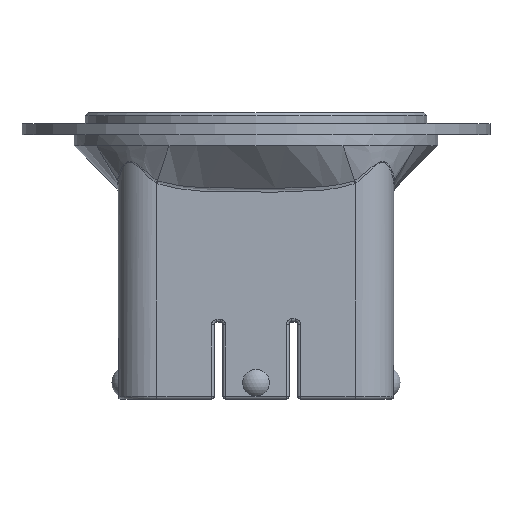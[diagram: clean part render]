
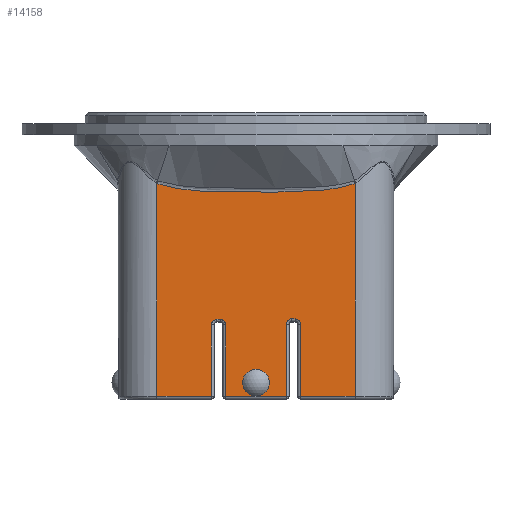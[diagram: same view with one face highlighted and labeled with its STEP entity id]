
A CAD part, left-side view. The second image highlights one B-rep face of the part: STEP entity #14158.
In plain terms, the highlighted planar face has unit normal (-1, 0, 0).
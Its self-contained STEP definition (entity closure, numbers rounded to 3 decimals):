
#256=PLANE('',#4425);
#922=VECTOR('',#3232,1.);
#924=VECTOR('',#3236,1.);
#926=VECTOR('',#3242,1.);
#928=VECTOR('',#3255,1.);
#930=VECTOR('',#3266,1.);
#931=VECTOR('',#3269,1.);
#934=VECTOR('',#3276,1.);
#936=VECTOR('',#3289,1.);
#938=VECTOR('',#3302,1.);
#993=VECTOR('',#3543,1.);
#994=VECTOR('',#3545,1.);
#1696=LINE('',#31612,#922);
#1698=LINE('',#31615,#924);
#1700=LINE('',#31621,#926);
#1702=LINE('',#31633,#928);
#1704=LINE('',#31642,#930);
#1705=LINE('',#31644,#931);
#1708=LINE('',#31651,#934);
#1710=LINE('',#31663,#936);
#1712=LINE('',#31993,#938);
#1767=LINE('',#32517,#993);
#1768=LINE('',#32519,#994);
#3228=DIRECTION('',(1.,0.,0.));
#3229=DIRECTION('',(0.,0.,-2.437));
#3232=DIRECTION('',(0.,0.,-1.));
#3236=DIRECTION('',(0.,1.,0.));
#3242=DIRECTION('',(0.,0.,1.));
#3248=DIRECTION('',(-1.,0.,0.));
#3249=DIRECTION('',(0.,-0.707,0.707));
#3255=DIRECTION('',(0.,1.,0.));
#3261=DIRECTION('',(-1.,0.,0.));
#3262=DIRECTION('',(0.,0.707,0.707));
#3266=DIRECTION('',(0.,0.,-1.));
#3269=DIRECTION('',(0.,1.,0.));
#3276=DIRECTION('',(0.,0.,1.));
#3282=DIRECTION('',(-1.,0.,0.));
#3283=DIRECTION('',(0.,-0.707,0.707));
#3289=DIRECTION('',(0.,1.,0.));
#3295=DIRECTION('',(-1.,0.,0.));
#3296=DIRECTION('',(0.,0.707,0.707));
#3302=DIRECTION('',(0.,0.,-1.));
#3543=DIRECTION('',(0.,0.,1.));
#3544=DIRECTION('',(-1.,0.,0.));
#3545=DIRECTION('',(0.,1.,0.));
#4291=AXIS2_PLACEMENT_3D('',#31609,#3228,#3229);
#4299=AXIS2_PLACEMENT_3D('',#31627,#3248,#3249);
#4305=AXIS2_PLACEMENT_3D('',#31639,#3261,#3262);
#4313=AXIS2_PLACEMENT_3D('',#31657,#3282,#3283);
#4319=AXIS2_PLACEMENT_3D('',#31669,#3295,#3296);
#4425=AXIS2_PLACEMENT_3D('',#32518,#3544,$);
#4773=CIRCLE('',#4291,2.437);
#4777=CIRCLE('',#4299,1.);
#4781=CIRCLE('',#4305,1.);
#4785=CIRCLE('',#4313,1.);
#4789=CIRCLE('',#4319,1.);
#5865=VERTEX_POINT('',#28270);
#5868=VERTEX_POINT('',#28277);
#5871=VERTEX_POINT('',#28284);
#5878=VERTEX_POINT('',#29167);
#5897=VERTEX_POINT('',#29240);
#5942=VERTEX_POINT('',#31436);
#5944=VERTEX_POINT('',#31610);
#5945=VERTEX_POINT('',#31618);
#5947=VERTEX_POINT('',#31624);
#5949=VERTEX_POINT('',#31630);
#5951=VERTEX_POINT('',#31636);
#5953=VERTEX_POINT('',#31648);
#5955=VERTEX_POINT('',#31654);
#5957=VERTEX_POINT('',#31660);
#5959=VERTEX_POINT('',#31666);
#5961=VERTEX_POINT('',#31990);
#6010=VERTEX_POINT('',#32516);
#6719=B_SPLINE_CURVE_WITH_KNOTS('',3,(#31970,#31971,#31972,#31973,#31974,
#31975,#31976,#31977,#31978,#31979,#31980,#31981,#31982,#31983,#31984,#31985,
#31986,#31987),.UNSPECIFIED.,.F.,.U.,(4,2,2,2,2,2,2,2,4),(-4.29,
-3.579,-2.872,-2.43,-2.154,
-1.878,-1.436,-0.835,-0.01),
 .UNSPECIFIED.);
#8212=EDGE_CURVE('',#5944,#5944,#4773,.T.);
#8213=EDGE_CURVE('',#5878,#5897,#1696,.T.);
#8215=EDGE_CURVE('',#5897,#5865,#1698,.T.);
#8218=EDGE_CURVE('',#5865,#5945,#1700,.T.);
#8221=EDGE_CURVE('',#5945,#5947,#4777,.T.);
#8224=EDGE_CURVE('',#5947,#5949,#1702,.T.);
#8227=EDGE_CURVE('',#5949,#5951,#4781,.T.);
#8229=EDGE_CURVE('',#5951,#5868,#1704,.T.);
#8230=EDGE_CURVE('',#5868,#5871,#1705,.T.);
#8234=EDGE_CURVE('',#5871,#5953,#1708,.T.);
#8237=EDGE_CURVE('',#5953,#5955,#4785,.T.);
#8240=EDGE_CURVE('',#5955,#5957,#1710,.T.);
#8243=EDGE_CURVE('',#5957,#5959,#4789,.T.);
#8244=EDGE_CURVE('',#5942,#5878,#6719,.T.);
#8247=EDGE_CURVE('',#5959,#5961,#1712,.T.);
#8356=EDGE_CURVE('',#6010,#5942,#1767,.T.);
#8357=EDGE_CURVE('',#5961,#6010,#1768,.T.);
#11603=ORIENTED_EDGE('',*,*,#8244,.F.);
#11604=ORIENTED_EDGE('',*,*,#8356,.F.);
#11605=ORIENTED_EDGE('',*,*,#8357,.F.);
#11606=ORIENTED_EDGE('',*,*,#8247,.F.);
#11607=ORIENTED_EDGE('',*,*,#8243,.F.);
#11608=ORIENTED_EDGE('',*,*,#8240,.F.);
#11609=ORIENTED_EDGE('',*,*,#8237,.F.);
#11610=ORIENTED_EDGE('',*,*,#8234,.F.);
#11611=ORIENTED_EDGE('',*,*,#8230,.F.);
#11612=ORIENTED_EDGE('',*,*,#8229,.F.);
#11613=ORIENTED_EDGE('',*,*,#8227,.F.);
#11614=ORIENTED_EDGE('',*,*,#8224,.F.);
#11615=ORIENTED_EDGE('',*,*,#8221,.F.);
#11616=ORIENTED_EDGE('',*,*,#8218,.F.);
#11617=ORIENTED_EDGE('',*,*,#8215,.F.);
#11618=ORIENTED_EDGE('',*,*,#8213,.F.);
#11619=ORIENTED_EDGE('',*,*,#8212,.T.);
#12687=EDGE_LOOP('',(#11603,#11604,#11605,#11606,#11607,#11608,#11609,#11610,
#11611,#11612,#11613,#11614,#11615,#11616,#11617,#11618));
#12688=EDGE_LOOP('',(#11619));
#13459=FACE_BOUND('',#12687,.T.);
#13460=FACE_BOUND('',#12688,.T.);
#14158=ADVANCED_FACE('',(#13459,#13460),#256,.T.);
#28270=CARTESIAN_POINT('',(0.,16.912,0.5));
#28277=CARTESIAN_POINT('',(0.,19.5,0.5));
#28284=CARTESIAN_POINT('',(0.,30.5,0.5));
#29167=CARTESIAN_POINT('',(0.,7.,39.165));
#29240=CARTESIAN_POINT('',(0.,7.,0.5));
#31436=CARTESIAN_POINT('',(0.,43.,39.165));
#31609=CARTESIAN_POINT('',(0.,25.,3.));
#31610=CARTESIAN_POINT('',(0.,25.,5.437));
#31612=CARTESIAN_POINT('',(0.,7.,0.));
#31615=CARTESIAN_POINT('',(0.,25.,0.5));
#31618=CARTESIAN_POINT('',(0.,16.912,13.604));
#31621=CARTESIAN_POINT('',(0.,16.912,3.5));
#31624=CARTESIAN_POINT('',(0.,17.912,14.604));
#31627=CARTESIAN_POINT('',(0.,17.912,13.604));
#31630=CARTESIAN_POINT('',(0.,18.5,14.604));
#31633=CARTESIAN_POINT('',(0.,21.603,14.604));
#31636=CARTESIAN_POINT('',(0.,19.5,13.604));
#31639=CARTESIAN_POINT('',(0.,18.5,13.604));
#31642=CARTESIAN_POINT('',(0.,19.5,3.5));
#31644=CARTESIAN_POINT('',(0.,25.,0.5));
#31648=CARTESIAN_POINT('',(0.,30.5,13.5));
#31651=CARTESIAN_POINT('',(0.,30.5,3.5));
#31654=CARTESIAN_POINT('',(0.,31.5,14.5));
#31657=CARTESIAN_POINT('',(0.,31.5,13.5));
#31660=CARTESIAN_POINT('',(0.,32.087,14.5));
#31663=CARTESIAN_POINT('',(0.,28.397,14.5));
#31666=CARTESIAN_POINT('',(0.,33.087,13.5));
#31669=CARTESIAN_POINT('',(0.,32.087,13.5));
#31970=CARTESIAN_POINT('',(0.,43.,39.165));
#31971=CARTESIAN_POINT('',(0.,41.774,38.743));
#31972=CARTESIAN_POINT('',(0.,40.446,38.429));
#31973=CARTESIAN_POINT('',(0.,37.518,37.965));
#31974=CARTESIAN_POINT('',(0.,35.921,37.816));
#31975=CARTESIAN_POINT('',(0.,33.045,37.67));
#31976=CARTESIAN_POINT('',(0.,31.872,37.637));
#31977=CARTESIAN_POINT('',(0.,29.843,37.605));
#31978=CARTESIAN_POINT('',(0.,29.033,37.597));
#31979=CARTESIAN_POINT('',(0.,27.35,37.588));
#31980=CARTESIAN_POINT('',(0.,26.478,37.587));
#31981=CARTESIAN_POINT('',(0.,24.12,37.585));
#31982=CARTESIAN_POINT('',(0.,22.623,37.586));
#31983=CARTESIAN_POINT('',(0.,19.123,37.612));
#31984=CARTESIAN_POINT('',(0.,17.103,37.644));
#31985=CARTESIAN_POINT('',(0.,12.349,37.94));
#31986=CARTESIAN_POINT('',(0.,9.599,38.269));
#31987=CARTESIAN_POINT('',(0.,7.,39.165));
#31990=CARTESIAN_POINT('',(0.,33.087,0.5));
#31993=CARTESIAN_POINT('',(0.,33.087,3.5));
#32516=CARTESIAN_POINT('',(0.,43.,0.5));
#32517=CARTESIAN_POINT('',(0.,43.,0.));
#32518=CARTESIAN_POINT('',(0.,25.,0.));
#32519=CARTESIAN_POINT('',(0.,25.,0.5));
